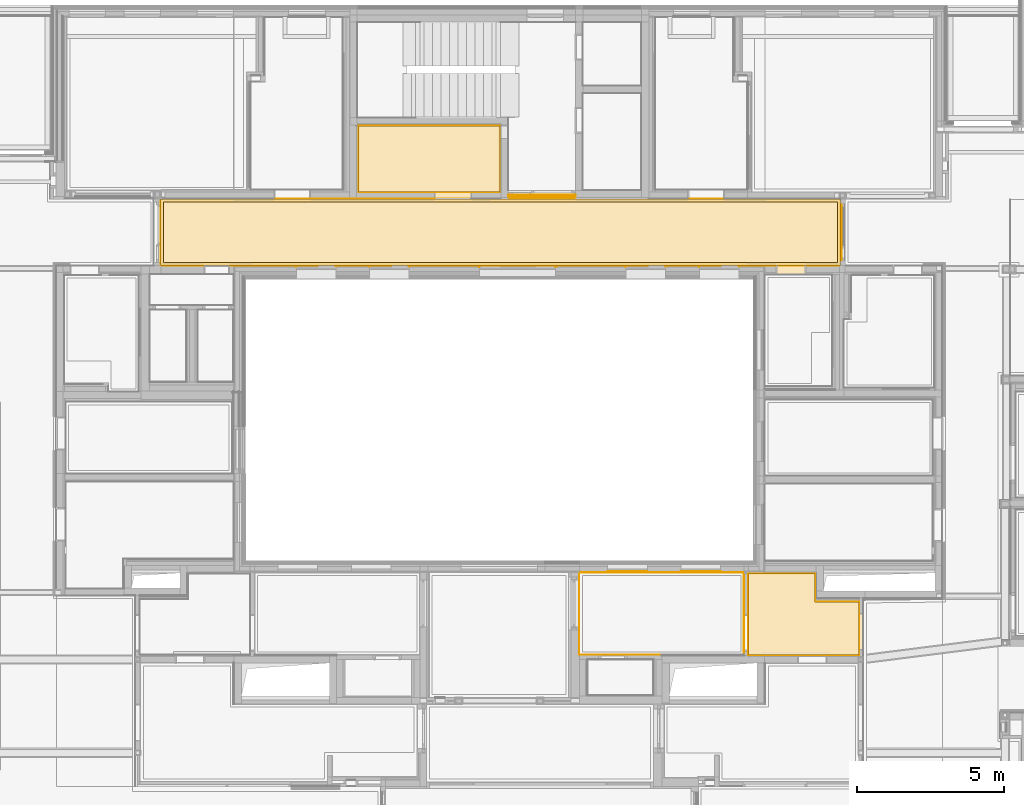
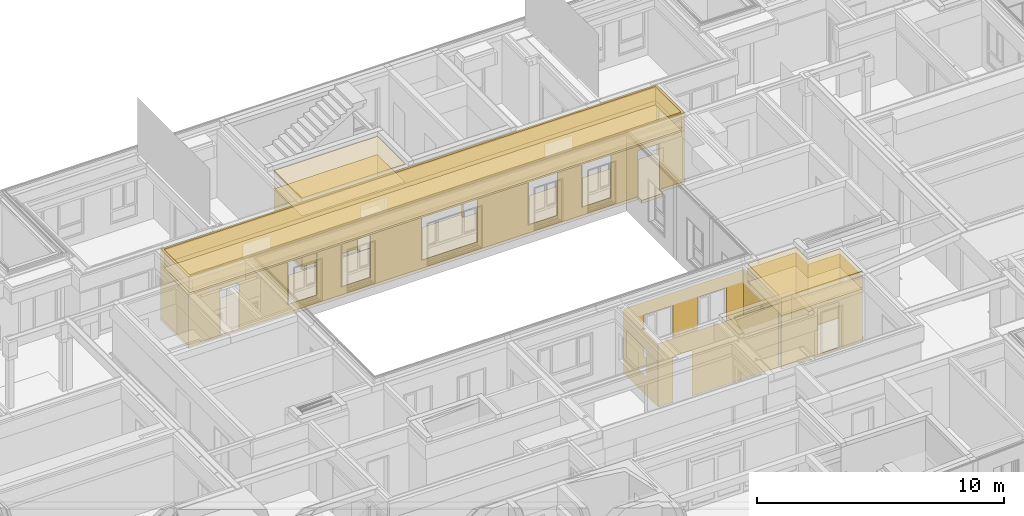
# One storey, part 174 of 222: 24 coverings.
"""IFC4 building model written with IfcOpenShell, lengths in metres."""

from ifc_helpers import new_model, entity, si_unit, converted_unit, derived_unit, frame, frame_2d, origin, origin_with_axes, place, context, subcontext, project, spatial, polyline, rectangle, outline, extrude, material, layer, layer_set, layer_usage, element, save


model = new_model("IFC4")

# Units and contexts
model_context = context("Model", 3, precision=1e-05, world=origin())
body_context = subcontext(model_context, "Body", "Model", "MODEL_VIEW")
ifc_project = project(units=[si_unit("LENGTHUNIT", "METRE"), si_unit("AREAUNIT", "SQUARE_METRE"), si_unit("VOLUMEUNIT", "CUBIC_METRE"), si_unit("MASSUNIT", "GRAM", prefix="KILO"), converted_unit("PLANEANGLEUNIT", "DEGREE", entity("IfcPlaneAngleMeasure", 0.0174532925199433), si_unit("PLANEANGLEUNIT", "RADIAN"), dimensions=[0, 0, 0, 0, 0, 0, 0]), derived_unit("THERMALTRANSMITTANCEUNIT", [(si_unit("POWERUNIT", "WATT"), 1), (si_unit("THERMODYNAMICTEMPERATUREUNIT", "KELVIN"), -1), (si_unit("LENGTHUNIT", "METRE"), -2)]), derived_unit("VOLUMETRICFLOWRATEUNIT", [(si_unit("LENGTHUNIT", "METRE"), 3), (converted_unit("TIMEUNIT", "hour", entity("IfcTimeMeasure", 3600.0), si_unit("TIMEUNIT", "SECOND"), dimensions=[0, 0, 1, 0, 0, 0, 0]), -1), (si_unit("LENGTHUNIT", "METRE"), -1)])], contexts=[model_context])

# Site, building, storey, space
site_placement = place(None, origin())
site = spatial("IfcSite", under=ifc_project, at=site_placement, Name="Psychiatrie Neubau Wunstorf", CompositionType="ELEMENT")
building_placement = place(site_placement, origin())
building = spatial("IfcBuilding", under=site, at=building_placement, Name="Neubau H2 Stationsgebäude", CompositionType="ELEMENT")
storey_placement = place(building_placement, frame((0.0, 0.0, 3.6)))
storey = spatial("IfcBuildingStorey", under=building, at=storey_placement, Name="H2 Ebene +1", CompositionType="ELEMENT", Elevation=3.6)
space_1_placement = place(storey_placement, frame((41.4405, 20.5859980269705, 0.0)))
space_1 = spatial("IfcSpace", under=storey, at=space_1_placement, Name="WUN-H2-E01-F08", CompositionType="ELEMENT")

# Coverings
ifc_material_1 = material(Name="97")
ifc_layer_1 = layer(ifc_material_1, 0.001)
ifc_layer_set_1 = layer_set([ifc_layer_1])
ifc_layer_usage_1 = layer_usage(ifc_layer_set_1, "AXIS3", "POSITIVE", 0.0)
covering_1_placement = place(space_1_placement, frame((5.12450000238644, 2.27800196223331, 0.8)))
element("IfcCovering", 1, at=covering_1_placement, inside=space_1, material=ifc_layer_usage_1, Name="Handlauf", PredefinedType="CLADDING", context=body_context, shape_type="SweptSolid", body=[
    extrude(rectangle(XDim=4.22499999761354, YDim=0.1, at=frame_2d((-2.11249999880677, 0.05), x_axis=(-1.0, 0.0))), frame((0.0, 0.0, 0.1), z_axis=(-7.61597301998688e-10, -1.0, 1.02646359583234e-24), x_axis=(-1.0, 7.61597301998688e-10, 0.0)), (0.0, 0.0, 1.0), 0.001),
])
ifc_material_2 = material()
ifc_layer_2 = layer(ifc_material_2, 0.036)
ifc_layer_set_2 = layer_set([ifc_layer_2])
ifc_layer_usage_2 = layer_usage(ifc_layer_set_2, "AXIS3", "POSITIVE", 0.0)
covering_2_placement = place(space_1_placement, frame((0.1, 0.0999999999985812, 3.55)))
element("IfcCovering", 2, at=covering_2_placement, inside=space_1, material=ifc_layer_usage_2, Name="Gipsfaserplatten 2-lagig (BSK)", PredefinedType="CEILING", context=body_context, shape_type="SweptSolid", body=[
    extrude(outline(polyline([(22.998, 2.07800196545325), (0.0, 2.07800193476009), (0.0, 9.56099051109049e-07), (22.998, 0.0), (22.998, 2.07800196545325)])), frame((0.0, 2.07800196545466, 0.0), z_axis=(0.0, 0.0, -1.0), x_axis=(1.0, 0.0, 0.0)), (0.0, 0.0, 1.0), 0.036),
])
ifc_material_3 = material(Name="Installationshöhe")
ifc_layer_3 = layer(ifc_material_3, 0.664)
ifc_layer_set_3 = layer_set([ifc_layer_3])
ifc_layer_usage_3 = layer_usage(ifc_layer_set_3, "AXIS3", "POSITIVE", 0.0)
covering_3_placement = place(space_1_placement, frame((0.1, 0.0999999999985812, 3.514)))
element("IfcCovering", 3, at=covering_3_placement, inside=space_1, material=ifc_layer_usage_3, Name="Gipsfaserplatten 2-lagig (BSK)", PredefinedType="CEILING", context=body_context, shape_type="SweptSolid", body=[
    extrude(outline(polyline([(22.998, 2.07800196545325), (0.0, 2.07800193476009), (0.0, 9.56099051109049e-07), (22.998, 0.0), (22.998, 2.07800196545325)])), frame((0.0, 2.07800196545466, 0.0), z_axis=(0.0, 0.0, -1.0), x_axis=(1.0, 0.0, 0.0)), (0.0, 0.0, 1.0), 0.664),
])
ifc_material_4 = material(Name="Aa")
ifc_layer_4 = layer(ifc_material_4, 0.2)
ifc_layer_set_4 = layer_set([ifc_layer_4])
ifc_layer_usage_4 = layer_usage(ifc_layer_set_4, "AXIS3", "POSITIVE", 0.0)
covering_4_placement = place(space_1_placement, frame((0.1, 0.0999999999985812, 2.85)))
element("IfcCovering", 4, at=covering_4_placement, inside=space_1, material=ifc_layer_usage_4, Name="Gipsfaserplatten 2-lagig (BSK)", PredefinedType="CEILING", context=body_context, shape_type="SweptSolid", body=[
    extrude(outline(polyline([(22.998, 2.07800196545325), (0.0, 2.07800193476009), (0.0, 9.56099051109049e-07), (22.998, 0.0), (22.998, 2.07800196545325)])), frame((0.0, 2.07800196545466, 0.0), z_axis=(0.0, 0.0, -1.0), x_axis=(1.0, 0.0, 0.0)), (0.0, 0.0, 1.0), 0.2),
])
ifc_material_5 = material(Name="D1")
ifc_layer_5 = layer(ifc_material_5, 0.001)
ifc_layer_set_5 = layer_set([ifc_layer_5])
ifc_layer_usage_5 = layer_usage(ifc_layer_set_5, "AXIS3", "POSITIVE", 0.0)
covering_5_placement = place(space_1_placement, frame((0.1, 0.0999999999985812, 2.65)))
element("IfcCovering", 5, at=covering_5_placement, inside=space_1, material=ifc_layer_usage_5, Name="Gipsfaserplatten 2-lagig (BSK)", PredefinedType="CEILING", context=body_context, shape_type="SweptSolid", body=[
    extrude(outline(polyline([(22.998, 2.07800196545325), (0.0, 2.07800193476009), (0.0, 9.56099051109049e-07), (22.998, 0.0), (22.998, 2.07800196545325)])), frame((0.0, 2.07800196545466, 0.0), z_axis=(0.0, 0.0, -1.0), x_axis=(1.0, 0.0, 0.0)), (0.0, 0.0, 1.0), 0.001),
])
ifc_material_6 = material(Name="Ku1")
ifc_layer_6 = layer(ifc_material_6, 0.15)
ifc_layer_set_6 = layer_set([ifc_layer_6])
ifc_layer_usage_6 = layer_usage(ifc_layer_set_6, "AXIS3", "POSITIVE", 0.0)
covering_6_placement = place(space_1_placement, frame((0.0, -0.306999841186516, 0.0)))
element("IfcCovering", 6, at=covering_6_placement, inside=space_1, material=ifc_layer_usage_6, Name="PVC Bahnenware Holzoptik", PredefinedType="FLOORING", context=body_context, shape_type="SweptSolid", body=[
    extrude(rectangle(XDim=0.12, YDim=1.968, at=frame_2d((-0.06, -0.984), x_axis=(-1.0, 0.0))), frame((23.318, 2.43000082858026, 0.0), z_axis=(0.0, 0.0, 1.0), x_axis=(1.0, 0.0, 0.0)), (0.0, 0.0, 1.0), 0.15),
    extrude(rectangle(XDim=0.307, YDim=1.26, at=frame_2d((0.63, -0.1535), x_axis=(0.0, -1.0))), frame((3.86450000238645, 2.89200180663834, 0.0), z_axis=(0.0, 0.0, 1.0), x_axis=(1.0, 0.0, 0.0)), (0.0, 0.0, 1.0), 0.15),
    extrude(rectangle(XDim=0.220499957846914, YDim=2.2999951, at=frame_2d((1.14999755, -0.110249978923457), x_axis=(0.0, -1.0))), frame((11.8595, 2.8054932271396, 0.0), z_axis=(0.0, 0.0, 1.0), x_axis=(1.0, 0.0, 0.0)), (0.0, 0.0, 1.0), 0.15),
    extrude(rectangle(XDim=0.306999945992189, YDim=1.01, at=frame_2d((-0.505, 0.153499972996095), x_axis=(0.0, 1.0))), frame((22.0195000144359, 0.0, 0.0), z_axis=(0.0, 0.0, 1.0), x_axis=(1.0, 0.0, 0.0)), (0.0, 0.0, 1.0), 0.15),
    extrude(outline(polyline([(23.198, 2.27800196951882), (0.0, 2.27800101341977), (0.0, 3.06931506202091e-08), (23.198, 0.0), (23.198, 2.27800196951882)])), frame((0.0, 0.306999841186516, 0.0), z_axis=(0.0, 0.0, 1.0), x_axis=(1.0, 0.0, 0.0)), (0.0, 0.0, 1.0), 0.15),
])
ifc_material_7 = material()
ifc_layer_7 = layer(ifc_material_7, 0.036)
ifc_layer_set_7 = layer_set([ifc_layer_7])
ifc_layer_usage_7 = layer_usage(ifc_layer_set_7, "AXIS3", "POSITIVE", 0.0)
covering_7_placement = place(space_1_placement, frame((0.0, 0.0, 3.55)))
element("IfcCovering", 7, at=covering_7_placement, inside=space_1, material=ifc_layer_usage_7, Name="Gipsfaserplatten 2-lagig (BSK)", PredefinedType="CEILING", context=body_context, shape_type="SweptSolid", body=[
    extrude(outline(polyline([(0.0, 9.56099051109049e-07), (23.198, 0.0), (23.198, 2.27800196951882), (0.0, 2.27800193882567), (0.0, 9.56099051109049e-07)]), holes=[polyline([(0.1, 2.17800193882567), (23.098, 2.17800196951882), (23.098, 0.100000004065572), (0.1, 0.100000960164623), (0.1, 2.17800193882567)])]), frame((0.0, 2.27800196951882, 0.0), z_axis=(0.0, 0.0, -1.0), x_axis=(1.0, 0.0, 0.0)), (0.0, 0.0, 1.0), 0.036),
])
ifc_material_8 = material(Name="Installationshöhe")
ifc_layer_8 = layer(ifc_material_8, 0.664)
ifc_layer_set_8 = layer_set([ifc_layer_8])
ifc_layer_usage_8 = layer_usage(ifc_layer_set_8, "AXIS3", "POSITIVE", 0.0)
covering_8_placement = place(space_1_placement, frame((0.0, 0.0, 3.514)))
element("IfcCovering", 8, at=covering_8_placement, inside=space_1, material=ifc_layer_usage_8, Name="Gipsfaserplatten 2-lagig (BSK)", PredefinedType="CEILING", context=body_context, shape_type="SweptSolid", body=[
    extrude(outline(polyline([(0.0, 9.56099051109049e-07), (23.198, 0.0), (23.198, 2.27800196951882), (0.0, 2.27800193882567), (0.0, 9.56099051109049e-07)]), holes=[polyline([(0.1, 2.17800193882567), (23.098, 2.17800196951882), (23.098, 0.100000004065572), (0.1, 0.100000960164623), (0.1, 2.17800193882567)])]), frame((0.0, 2.27800196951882, 0.0), z_axis=(0.0, 0.0, -1.0), x_axis=(1.0, 0.0, 0.0)), (0.0, 0.0, 1.0), 0.664),
])
ifc_material_9 = material(Name="A1")
ifc_layer_9 = layer(ifc_material_9, 0.2)
ifc_layer_set_9 = layer_set([ifc_layer_9])
ifc_layer_usage_9 = layer_usage(ifc_layer_set_9, "AXIS3", "POSITIVE", 0.0)
covering_9_placement = place(space_1_placement, frame((0.0, 0.0, 2.85)))
element("IfcCovering", 9, at=covering_9_placement, inside=space_1, material=ifc_layer_usage_9, Name="Gipsfaserplatten 2-lagig (BSK)", PredefinedType="CEILING", context=body_context, shape_type="SweptSolid", body=[
    extrude(outline(polyline([(0.0, 9.56099051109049e-07), (23.198, 0.0), (23.198, 2.27800196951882), (0.0, 2.27800193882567), (0.0, 9.56099051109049e-07)]), holes=[polyline([(0.1, 2.17800193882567), (23.098, 2.17800196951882), (23.098, 0.100000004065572), (0.1, 0.100000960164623), (0.1, 2.17800193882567)])]), frame((0.0, 2.27800196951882, 0.0), z_axis=(0.0, 0.0, -1.0), x_axis=(1.0, 0.0, 0.0)), (0.0, 0.0, 1.0), 0.2),
])
ifc_material_10 = material(Name="D1")
ifc_layer_10 = layer(ifc_material_10, 0.001)
ifc_layer_set_10 = layer_set([ifc_layer_10])
ifc_layer_usage_10 = layer_usage(ifc_layer_set_10, "AXIS3", "POSITIVE", 0.0)
covering_10_placement = place(space_1_placement, frame((0.0, 0.0, 2.65)))
element("IfcCovering", 10, at=covering_10_placement, inside=space_1, material=ifc_layer_usage_10, Name="Gipsfaserplatten 2-lagig (BSK)", PredefinedType="CEILING", context=body_context, shape_type="SweptSolid", body=[
    extrude(outline(polyline([(0.0, 9.56099051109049e-07), (23.198, 0.0), (23.198, 2.27800196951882), (0.0, 2.27800193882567), (0.0, 9.56099051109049e-07)]), holes=[polyline([(0.1, 2.17800193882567), (23.098, 2.17800196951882), (23.098, 0.100000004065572), (0.1, 0.100000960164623), (0.1, 2.17800193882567)])]), frame((0.0, 2.27800196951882, 0.0), z_axis=(0.0, 0.0, -1.0), x_axis=(1.0, 0.0, 0.0)), (0.0, 0.0, 1.0), 0.001),
])
ifc_material_11 = material(Name="49")
ifc_layer_11 = layer(ifc_material_11, 0.001)
ifc_layer_set_11 = layer_set([ifc_layer_11])
ifc_layer_usage_11 = layer_usage(ifc_layer_set_11, "AXIS3", "POSITIVE", 0.0)
covering_11_placement = place(space_1_placement, frame((0.0, -0.0499999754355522, 0.15)))
element("IfcCovering", 11, at=covering_11_placement, inside=space_1, material=ifc_layer_usage_11, PredefinedType="CLADDING", context=body_context, shape_type="SweptSolid", body=[
    extrude(outline(polyline([(0.0, 2.5), (1.47450000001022, 2.5), (1.47450000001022, 0.24), (2.35950000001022, 0.24), (2.35950000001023, 2.5), (21.0095000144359, 2.5), (21.0095000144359, 0.239999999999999), (22.0195000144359, 0.239999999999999), (22.0195000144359, 2.5), (23.198, 2.5), (23.198, 0.0), (19.7321000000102, 0.0), (19.7321000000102, 2.1), (18.3821000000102, 2.1), (18.3821000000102, 0.0), (17.2321000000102, 0.0), (17.2321000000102, 2.1), (15.8821000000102, 2.1), (15.8821000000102, 0.0), (13.4821000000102, 0.0), (13.4821000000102, 2.1), (10.8821000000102, 2.1), (10.8821000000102, 0.0), (8.48210000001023, 0.0), (8.48210000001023, 2.1), (7.13210000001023, 2.1), (7.13210000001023, 0.0), (5.98210000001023, 0.0), (5.98210000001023, 2.1), (4.63210000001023, 2.1), (4.63210000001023, 0.0), (0.0, 0.0), (0.0, 2.5)])), frame((0.0, 0.0499999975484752, 2.5), z_axis=(-1.22822659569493e-10, 1.0, -7.50131264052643e-09), x_axis=(1.0, 1.22822659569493e-10, 0.0)), (0.0, 0.0, 1.0), 0.001),
    extrude(outline(polyline([(0.0, 2.5), (0.155000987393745, 2.5), (0.155000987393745, 0.24), (2.12300098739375, 0.24), (2.12300098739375, 2.5), (2.27800196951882, 2.5), (2.27800196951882, 0.0), (0.0, 0.0), (0.0, 2.5)])), frame((23.198, 0.0499999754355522, 2.5), z_axis=(-1.0, 5.59634165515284e-17, -9.9008657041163e-16), x_axis=(5.59634165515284e-17, 1.0, 0.0)), (0.0, 0.0, 1.0), 0.001),
    extrude(outline(polyline([(23.198, 1.65000000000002), (23.198, 0.0), (0.0, 0.0), (0.0, 1.64999999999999), (3.95350000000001, 1.64999999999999), (3.9535, 0.239999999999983), (5.2135, 0.239999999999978), (5.21350000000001, 1.64999999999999), (12.5885, 1.65), (12.5885, 0.239999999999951), (13.8485, 0.239999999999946), (13.8485, 1.65), (18.0734999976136, 1.65000000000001), (18.0734999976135, 0.239999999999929), (19.3334999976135, 0.239999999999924), (19.3334999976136, 1.65000000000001), (23.198, 1.65000000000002)])), frame((23.198, 2.32800212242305, 2.49999999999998), z_axis=(3.10192313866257e-08, -0.999999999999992, 1.23966828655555e-07), x_axis=(-1.0, -3.10192313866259e-08, 0.0)), (0.0, 0.0, 1.0), 0.001),
    extrude(rectangle(XDim=2.27800098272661, YDim=2.5, at=frame_2d((1.13900049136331, -1.25), x_axis=(1.0, 0.0))), frame((0.0, 2.32800098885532, 0.0), z_axis=(1.0, 0.0, 0.0), x_axis=(0.0, -1.0, 0.0)), (0.0, 0.0, 1.0), 0.001),
    extrude(rectangle(XDim=0.0499999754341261, YDim=2.1, at=frame_2d((0.024999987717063, -1.05), x_axis=(1.0, 0.0))), frame((4.63210000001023, 0.0499999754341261, 0.4), z_axis=(1.0, 0.0, 0.0), x_axis=(0.0, -1.0, 0.0)), (0.0, 0.0, 1.0), 0.001),
    extrude(rectangle(XDim=2.1, YDim=0.0499999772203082, at=frame_2d((-0.0249999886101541, -1.05), x_axis=(0.0, -1.0))), frame((5.98210000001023, 0.0499999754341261, 0.4), z_axis=(-1.0, 0.0, 0.0), x_axis=(0.0, 1.0, 0.0)), (0.0, 0.0, 1.0), 0.001),
    extrude(rectangle(XDim=2.1, YDim=0.0499999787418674, at=frame_2d((-0.0249999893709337, -1.05), x_axis=(0.0, -1.0))), frame((7.13210000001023, 0.0, 0.4), z_axis=(1.0, 0.0, 0.0), x_axis=(0.0, -1.0, 0.0)), (0.0, 0.0, 1.0), 0.001),
    extrude(rectangle(XDim=2.1, YDim=0.0499999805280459, at=frame_2d((-0.0249999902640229, -1.05), x_axis=(0.0, -1.0))), frame((8.48210000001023, 0.0499999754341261, 0.4), z_axis=(-1.0, 0.0, 0.0), x_axis=(0.0, 1.0, 0.0)), (0.0, 0.0, 1.0), 0.001),
    extrude(rectangle(XDim=2.1, YDim=0.0499999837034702, at=frame_2d((-0.0249999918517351, -1.05), x_axis=(0.0, -1.0))), frame((10.8821000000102, 0.0, 0.4), z_axis=(1.0, 0.0, 0.0), x_axis=(0.0, -1.0, 0.0)), (0.0, 0.0, 1.0), 0.001),
    extrude(rectangle(XDim=2.1, YDim=0.0499999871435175, at=frame_2d((-0.0249999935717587, -1.05), x_axis=(0.0, -1.0))), frame((13.4821000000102, 0.0499999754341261, 0.4), z_axis=(-1.0, -7.27595948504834e-14, -1.73237086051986e-15), x_axis=(-7.27595948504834e-14, 1.0, 0.0)), (0.0, 0.0, 1.0), 0.001),
    extrude(rectangle(XDim=2.1, YDim=0.0499999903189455, at=frame_2d((-0.0249999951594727, -1.05), x_axis=(0.0, -1.0))), frame((15.8821000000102, -1.48848193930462e-08, 0.4), z_axis=(1.0, 7.27595902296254e-14, 1.73237086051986e-15), x_axis=(7.27595902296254e-14, -1.0, 0.0)), (0.0, 0.0, 1.0), 0.001),
    extrude(rectangle(XDim=2.1, YDim=0.049999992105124, at=frame_2d((-0.024999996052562, -1.05), x_axis=(0.0, -1.0))), frame((17.2321000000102, 0.0499999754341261, 0.4), z_axis=(-1.0, -1.45519175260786e-13, 0.0), x_axis=(-1.45519175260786e-13, 1.0, 0.0)), (0.0, 0.0, 1.0), 0.001),
    extrude(rectangle(XDim=2.1, YDim=0.0499999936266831, at=frame_2d((-0.0249999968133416, -1.05), x_axis=(0.0, -1.0))), frame((18.3821000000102, -1.81925570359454e-08, 0.4), z_axis=(1.0, -7.27595854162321e-14, 1.73237086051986e-15), x_axis=(-7.27595854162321e-14, -1.0, 0.0)), (0.0, 0.0, 1.0), 0.001),
    extrude(rectangle(XDim=2.1, YDim=0.049999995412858, at=frame_2d((-0.024999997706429, -1.05), x_axis=(0.0, -1.0))), frame((19.7321000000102, 0.0499999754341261, 0.4), z_axis=(-1.0, 1.4551916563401e-13, -3.46474172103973e-15), x_axis=(1.4551916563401e-13, 1.0, 0.0)), (0.0, 0.0, 1.0), 0.001),
    extrude(rectangle(XDim=0.04, YDim=2.26, at=frame_2d((0.02, -1.13), x_axis=(1.0, 0.0))), frame((23.198, 0.205000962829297, 0.0), z_axis=(0.0, 1.0, 0.0), x_axis=(1.0, 0.0, 0.0)), (0.0, 0.0, 1.0), 0.001),
    extrude(rectangle(XDim=1.968, YDim=0.04, at=frame_2d((0.02, 0.984), x_axis=(0.0, 1.0))), frame((23.198, 2.1730009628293, 2.26), z_axis=(0.0, 0.0, -1.0), x_axis=(1.0, 0.0, 0.0)), (0.0, 0.0, 1.0), 0.001),
    extrude(rectangle(XDim=2.26, YDim=0.04, at=frame_2d((0.02, 1.13), x_axis=(0.0, 1.0))), frame((23.238, 2.1730009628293, 2.26), z_axis=(0.0, -1.0, 0.0), x_axis=(-1.0, 0.0, 0.0)), (0.0, 0.0, 1.0), 0.001),
    extrude(rectangle(XDim=2.38, YDim=0.140490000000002, at=frame_2d((0.0702450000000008, 1.19), x_axis=(0.0, 1.0))), frame((14.1594951, 2.32800157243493, 2.38), z_axis=(-1.0, 0.0, 0.0), x_axis=(0.0, 1.0, 0.0)), (0.0, 0.0, 1.0), 0.001),
    extrude(rectangle(XDim=2.2999951, YDim=0.140489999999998, at=frame_2d((1.14999755, -0.0702450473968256), x_axis=(0.999999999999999, -4.12147196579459e-08))), frame((11.8595, 2.32800147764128, 2.38), z_axis=(0.0, 0.0, -1.0), x_axis=(1.0, 0.0, 0.0)), (0.0, 0.0, 1.0), 0.001),
    extrude(rectangle(XDim=2.38, YDim=0.140490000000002, at=frame_2d((0.0702450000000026, 1.19), x_axis=(1.52856252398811e-15, 1.0))), frame((11.8595, 2.46849147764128, 2.38), z_axis=(1.0, 0.0, 0.0), x_axis=(0.0, -1.0, 0.0)), (0.0, 0.0, 1.0), 0.001),
])

# Space
space_2_placement = place(storey_placement, frame((61.5, 7.29499963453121, 0.0)))
space_2 = spatial("IfcSpace", under=storey, at=space_2_placement, Name="WUN-H2-E01-064", CompositionType="ELEMENT")

# Coverings
ifc_material_12 = material(Name="Ku1")
ifc_layer_12 = layer(ifc_material_12, 0.15)
ifc_layer_set_12 = layer_set([ifc_layer_12])
ifc_layer_usage_12 = layer_usage(ifc_layer_set_12, "AXIS3", "POSITIVE", 0.0)
covering_12_placement = place(space_2_placement, origin())
element("IfcCovering", 12, at=covering_12_placement, inside=space_2, material=ifc_layer_usage_12, Name="PVC Bahnenware Holzoptik", PredefinedType="FLOORING", context=body_context, shape_type="SweptSolid", body=[
    extrude(rectangle(XDim=0.15, YDim=1.26, at=frame_2d((-0.075, -0.63), x_axis=(-1.0, 0.0))), frame((3.92499633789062, 1.42669606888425, 0.0), z_axis=(0.0, 0.0, 1.0), x_axis=(1.0, 0.0, 0.0)), (0.0, 0.0, 1.0), 0.15),
    extrude(outline(polyline([(3.77499633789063, 1.81500005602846), (2.28000036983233, 1.81500005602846), (2.28000036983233, 2.77900005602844), (0.0, 2.77900005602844), (0.0, 5.60275566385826e-08), (3.77499633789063, 0.0), (3.77499633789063, 1.81500005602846)])), origin_with_axes(), (0.0, 0.0, 1.0), 0.15),
])
ifc_material_13 = material()
ifc_layer_13 = layer(ifc_material_13, 0.036)
ifc_layer_set_13 = layer_set([ifc_layer_13])
ifc_layer_usage_13 = layer_usage(ifc_layer_set_13, "AXIS3", "POSITIVE", 0.0)
covering_13_placement = place(space_2_placement, frame((0.0, 0.0, 3.55)))
element("IfcCovering", 13, at=covering_13_placement, inside=space_2, material=ifc_layer_usage_13, Name="Gipsfaserplatten 2-lagig (BSK)", PredefinedType="CEILING", context=body_context, shape_type="SweptSolid", body=[
    extrude(outline(polyline([(2.28000036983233, 0.963999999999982), (3.77499633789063, 0.963999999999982), (3.77499633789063, 2.77900005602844), (0.0, 2.77900000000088), (0.0, 0.0), (2.28000036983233, 0.0), (2.28000036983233, 0.963999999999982)])), frame((0.0, 2.77900005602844, 0.0), z_axis=(0.0, 0.0, -1.0), x_axis=(1.0, 0.0, 0.0)), (0.0, 0.0, 1.0), 0.036),
])
ifc_material_14 = material(Name="Installationshöhe")
ifc_layer_14 = layer(ifc_material_14, 0.764)
ifc_layer_set_14 = layer_set([ifc_layer_14])
ifc_layer_usage_14 = layer_usage(ifc_layer_set_14, "AXIS3", "POSITIVE", 0.0)
covering_14_placement = place(space_2_placement, frame((0.0, 0.0, 3.514)))
element("IfcCovering", 14, at=covering_14_placement, inside=space_2, material=ifc_layer_usage_14, Name="Gipsfaserplatten 2-lagig (BSK)", PredefinedType="CEILING", context=body_context, shape_type="SweptSolid", body=[
    extrude(outline(polyline([(2.28000036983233, 0.963999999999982), (3.77499633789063, 0.963999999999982), (3.77499633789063, 2.77900005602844), (0.0, 2.77900000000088), (0.0, 0.0), (2.28000036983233, 0.0), (2.28000036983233, 0.963999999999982)])), frame((0.0, 2.77900005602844, 0.0), z_axis=(0.0, 0.0, -1.0), x_axis=(1.0, 0.0, 0.0)), (0.0, 0.0, 1.0), 0.764),
])
ifc_material_15 = material(Name="A1")
ifc_layer_15 = layer(ifc_material_15, 0.1)
ifc_layer_set_15 = layer_set([ifc_layer_15])
ifc_layer_usage_15 = layer_usage(ifc_layer_set_15, "AXIS3", "POSITIVE", 0.0)
covering_15_placement = place(space_2_placement, frame((0.0, 0.0, 2.75)))
element("IfcCovering", 15, at=covering_15_placement, inside=space_2, material=ifc_layer_usage_15, Name="Gipsfaserplatten 2-lagig (BSK)", PredefinedType="CEILING", context=body_context, shape_type="SweptSolid", body=[
    extrude(outline(polyline([(2.28000036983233, 0.963999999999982), (3.77499633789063, 0.963999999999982), (3.77499633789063, 2.77900005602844), (0.0, 2.77900000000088), (0.0, 0.0), (2.28000036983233, 0.0), (2.28000036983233, 0.963999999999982)])), frame((0.0, 2.77900005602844, 0.0), z_axis=(0.0, 0.0, -1.0), x_axis=(1.0, 0.0, 0.0)), (0.0, 0.0, 1.0), 0.1),
])
ifc_material_16 = material(Name="D1")
ifc_layer_16 = layer(ifc_material_16, 0.001)
ifc_layer_set_16 = layer_set([ifc_layer_16])
ifc_layer_usage_16 = layer_usage(ifc_layer_set_16, "AXIS3", "POSITIVE", 0.0)
covering_16_placement = place(space_2_placement, frame((0.0, 0.0, 2.65)))
element("IfcCovering", 16, at=covering_16_placement, inside=space_2, material=ifc_layer_usage_16, Name="Gipsfaserplatten 2-lagig (BSK)", PredefinedType="CEILING", context=body_context, shape_type="SweptSolid", body=[
    extrude(outline(polyline([(2.28000036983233, 0.963999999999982), (3.77499633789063, 0.963999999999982), (3.77499633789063, 2.77900005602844), (0.0, 2.77900000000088), (0.0, 0.0), (2.28000036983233, 0.0), (2.28000036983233, 0.963999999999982)])), frame((0.0, 2.77900005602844, 0.0), z_axis=(0.0, 0.0, -1.0), x_axis=(1.0, 0.0, 0.0)), (0.0, 0.0, 1.0), 0.001),
])
ifc_material_17 = material(Name="49")
ifc_layer_17 = layer(ifc_material_17, 0.001)
ifc_layer_set_17 = layer_set([ifc_layer_17])
ifc_layer_usage_17 = layer_usage(ifc_layer_set_17, "AXIS3", "POSITIVE", 0.0)
covering_17_placement = place(space_2_placement, frame((0.0, 0.0, 0.15)))
element("IfcCovering", 17, at=covering_17_placement, inside=space_2, material=ifc_layer_usage_17, PredefinedType="CLADDING", context=body_context, shape_type="SweptSolid", body=[
    extrude(outline(polyline([(0.0, 3.15), (1.67500000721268, 3.15), (1.67500000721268, 0.89), (2.68500000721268, 0.89), (2.68500000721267, 3.15), (3.77499633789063, 3.15), (3.77499633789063, 0.0), (0.0, 0.0), (0.0, 3.15)])), frame((0.0, 6.48662708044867e-08, 3.15), z_axis=(1.35192077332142e-08, 1.0, -1.91359175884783e-09), x_axis=(1.0, -1.35192077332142e-08, 0.0)), (0.0, 0.0, 1.0), 0.001),
    extrude(outline(polyline([(0.0, 3.15), (0.166696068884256, 3.15), (0.166696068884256, 0.89), (1.42669606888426, 0.89), (1.42669606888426, 3.15), (1.81500005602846, 3.15), (1.81500005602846, 0.0), (0.0, 0.0), (0.0, 3.15)])), frame((3.77499633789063, 0.0, 3.15), z_axis=(-1.0, 0.0, 0.0), x_axis=(0.0, 1.0, 0.0)), (0.0, 0.0, 1.0), 0.001),
    extrude(rectangle(XDim=1.4949959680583, YDim=3.15, at=frame_2d((0.747497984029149, -1.575), x_axis=(1.0, 0.0))), frame((3.77499633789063, 1.81500005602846, 0.0), z_axis=(0.0, -1.0, 0.0), x_axis=(-1.0, 0.0, 0.0)), (0.0, 0.0, 1.0), 0.001),
    extrude(rectangle(XDim=0.963999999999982, YDim=3.15, at=frame_2d((0.481999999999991, -1.575), x_axis=(1.0, 0.0))), frame((2.28000036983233, 1.81500005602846, 0.0), z_axis=(-1.0, 0.0, 0.0), x_axis=(0.0, 1.0, 0.0)), (0.0, 0.0, 1.0), 0.001),
    extrude(rectangle(XDim=2.28000036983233, YDim=3.15, at=frame_2d((1.14000018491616, -1.575), x_axis=(1.0, 0.0))), frame((2.28000036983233, 2.77900005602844, 0.0), z_axis=(0.0, -1.0, 0.0), x_axis=(-1.0, 0.0, 0.0)), (0.0, 0.0, 1.0), 0.001),
    extrude(outline(polyline([(0.0, 3.15), (1.389, 3.15), (1.389, 0.89), (2.649, 0.89), (2.649, 3.15), (2.77900000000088, 3.15), (2.77900000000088, 0.0), (0.0, 0.0), (0.0, 3.15)])), frame((0.0, 2.77900005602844, 3.15), z_axis=(1.0, 0.0, 0.0), x_axis=(0.0, -1.0, 0.0)), (0.0, 0.0, 1.0), 0.001),
])

# Space
space_3_placement = place(storey_placement, frame((55.7325000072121, 7.29999969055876, 0.0)))
space_3 = spatial("IfcSpace", under=storey, at=space_3_placement, Name="WUN-H2-E01-064a", CompositionType="ELEMENT")

# Covering
ifc_material_18 = material(Name="49")
ifc_layer_18 = layer(ifc_material_18, 0.001)
ifc_layer_set_18 = layer_set([ifc_layer_18])
ifc_layer_usage_18 = layer_usage(ifc_layer_set_18, "AXIS3", "POSITIVE", 0.0)
covering_18_placement = place(space_3_placement, frame((0.0, 0.0, 0.15)))
element("IfcCovering", 18, at=covering_18_placement, inside=space_3, material=ifc_layer_usage_18, PredefinedType="CLADDING", context=body_context, shape_type="SweptSolid", body=[
    extrude(outline(polyline([(0.0, 3.15), (5.61749999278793, 3.15), (5.61749999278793, 0.0), (0.0, 0.0), (0.0, 3.15)]), holes=[polyline([(4.6513, 2.75), (3.3013, 2.75), (3.3013, 0.635), (4.6513, 0.635), (4.6513, 2.75)]), polyline([(2.1513, 2.75), (0.801300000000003, 2.75), (0.801300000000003, 0.635), (2.1513, 0.635), (2.1513, 2.75)])]), frame((5.61749999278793, 2.81400000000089, 3.15), z_axis=(0.0, -1.0, 0.0), x_axis=(-1.0, 0.0, 0.0)), (0.0, 0.0, 1.0), 0.001),
    extrude(outline(polyline([(0.0, 3.15), (2.81400000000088, 3.15), (2.81400000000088, 0.0), (0.0, 0.0), (0.0, 3.15)]), holes=[polyline([(1.86250000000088, 2.225), (0.262500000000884, 2.225), (0.262500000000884, 0.915), (1.86250000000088, 0.915), (1.86250000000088, 2.225)])]), frame((0.0, 2.81400000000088, 3.15), z_axis=(1.0, 2.50938584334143e-14, 0.0), x_axis=(2.50938584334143e-14, -1.0, 0.0)), (0.0, 0.0, 1.0), 0.001),
    extrude(outline(polyline([(0.0, 3.15), (0.696999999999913, 3.15), (0.696999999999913, 0.89), (1.58199999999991, 0.89), (1.58199999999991, 3.15), (5.61749999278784, 3.15), (5.61749999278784, 0.0), (0.0, 0.0), (0.0, 3.15)])), frame((0.0, 0.0, 3.15), z_axis=(-1.61344168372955e-13, 1.0, 1.11435060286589e-14), x_axis=(1.0, 1.61344168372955e-13, 0.0)), (0.0, 0.0, 1.0), 0.001),
    extrude(outline(polyline([(0.0, 3.15), (0.124999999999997, 3.15), (0.124999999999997, 0.89), (1.385, 0.89), (1.385, 3.15), (2.814, 3.15), (2.814, 0.0), (0.0, 0.0), (0.0, 3.15)])), frame((5.61749999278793, 0.0, 3.15), z_axis=(-1.0, 0.0, 0.0), x_axis=(0.0, 1.0, 0.0)), (0.0, 0.0, 1.0), 0.001),
    extrude(rectangle(XDim=0.0399999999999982, YDim=1.35, at=frame_2d((-0.675, -0.0199999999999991), x_axis=(0.0, -1.0))), frame((2.31619999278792, 2.81400000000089, 2.515), z_axis=(0.0, 0.0, -1.0), x_axis=(1.0, 0.0, 0.0)), (0.0, 0.0, 1.0), 0.001),
    extrude(rectangle(XDim=0.0399999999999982, YDim=2.115, at=frame_2d((0.0199999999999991, -1.0575), x_axis=(1.0, 0.0))), frame((2.31619999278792, 2.81400000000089, 0.4), z_axis=(-1.0, 0.0, 0.0), x_axis=(0.0, 1.0, 0.0)), (0.0, 0.0, 1.0), 0.001),
    extrude(rectangle(XDim=2.115, YDim=0.0399999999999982, at=frame_2d((-0.0199999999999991, -1.0575), x_axis=(0.0, -1.0))), frame((0.966199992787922, 2.81400000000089, 0.4), z_axis=(1.0, 0.0, 0.0), x_axis=(0.0, -1.0, 0.0)), (0.0, 0.0, 1.0), 0.001),
    extrude(rectangle(XDim=0.0399999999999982, YDim=1.35, at=frame_2d((-0.675, -0.0199999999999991), x_axis=(0.0, -1.0))), frame((4.81619999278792, 2.81400000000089, 2.515), z_axis=(0.0, 0.0, -1.0), x_axis=(1.0, 0.0, 0.0)), (0.0, 0.0, 1.0), 0.001),
    extrude(rectangle(XDim=0.0399999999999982, YDim=2.115, at=frame_2d((0.0199999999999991, -1.0575), x_axis=(1.0, 0.0))), frame((4.81619999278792, 2.81400000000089, 0.4), z_axis=(-1.0, 0.0, 0.0), x_axis=(0.0, 1.0, 0.0)), (0.0, 0.0, 1.0), 0.001),
    extrude(rectangle(XDim=2.115, YDim=0.0399999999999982, at=frame_2d((-0.0199999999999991, -1.0575), x_axis=(0.0, -1.0))), frame((3.46619999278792, 2.81400000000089, 0.4), z_axis=(1.0, 0.0, 0.0), x_axis=(0.0, -1.0, 0.0)), (0.0, 0.0, 1.0), 0.001),
])

# Space
space_4_placement = place(storey_placement, frame((48.196, 23.0959999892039, 0.0)))
space_4 = spatial("IfcSpace", under=storey, at=space_4_placement, Name="WUN-H2-E01-049", CompositionType="ELEMENT")

# Coverings
ifc_material_19 = material(Name="Ku1")
ifc_layer_19 = layer(ifc_material_19, 0.15)
ifc_layer_set_19 = layer_set([ifc_layer_19])
ifc_layer_usage_19 = layer_usage(ifc_layer_set_19, "AXIS3", "POSITIVE", 0.0)
covering_19_placement = place(space_4_placement, frame((0.0, -0.232, 0.0)))
element("IfcCovering", 19, at=covering_19_placement, inside=space_4, material=ifc_layer_usage_19, Name="PVC Bahnenware Holzoptik", PredefinedType="FLOORING", context=body_context, shape_type="SweptSolid", body=[
    extrude(rectangle(XDim=0.232, YDim=1.26, at=frame_2d((-0.63, 0.116), x_axis=(0.0, 1.0))), frame((3.85400000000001, 0.0, 0.0), z_axis=(0.0, 0.0, 1.0), x_axis=(1.0, 0.0, 0.0)), (0.0, 0.0, 1.0), 0.15),
    extrude(rectangle(XDim=4.82400036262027, YDim=2.25900036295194, at=frame_2d((2.41200018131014, 1.1295001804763), x_axis=(1.0, -4.14456553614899e-10))), frame((0.0, 0.232000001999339, 0.0), z_axis=(0.0, 0.0, 1.0), x_axis=(1.0, 0.0, 0.0)), (0.0, 0.0, 1.0), 0.15),
])
ifc_material_20 = material()
ifc_layer_20 = layer(ifc_material_20, 0.036)
ifc_layer_set_20 = layer_set([ifc_layer_20])
ifc_layer_usage_20 = layer_usage(ifc_layer_set_20, "AXIS3", "POSITIVE", 0.0)
covering_20_placement = place(space_4_placement, frame((0.0, 0.0, 3.55)))
element("IfcCovering", 20, at=covering_20_placement, inside=space_4, material=ifc_layer_usage_20, Name="Gipsfaserplatten 2-lagig (BSK)", PredefinedType="CEILING", context=body_context, shape_type="SweptSolid", body=[
    extrude(rectangle(XDim=4.82400036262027, YDim=2.25900036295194, at=frame_2d((-2.41200018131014, -1.12950018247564), x_axis=(-1.0, -4.14456553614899e-10))), frame((4.82400036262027, 0.0, 0.0), z_axis=(0.0, 0.0, -1.0), x_axis=(1.0, 0.0, 0.0)), (0.0, 0.0, 1.0), 0.036),
])
ifc_material_21 = material(Name="Installationshöhe")
ifc_layer_21 = layer(ifc_material_21, 0.764)
ifc_layer_set_21 = layer_set([ifc_layer_21])
ifc_layer_usage_21 = layer_usage(ifc_layer_set_21, "AXIS3", "POSITIVE", 0.0)
covering_21_placement = place(space_4_placement, frame((0.0, 0.0, 3.514)))
element("IfcCovering", 21, at=covering_21_placement, inside=space_4, material=ifc_layer_usage_21, Name="Gipsfaserplatten 2-lagig (BSK)", PredefinedType="CEILING", context=body_context, shape_type="SweptSolid", body=[
    extrude(rectangle(XDim=4.82400036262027, YDim=2.25900036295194, at=frame_2d((-2.41200018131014, -1.12950018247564), x_axis=(-1.0, -4.14456553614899e-10))), frame((4.82400036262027, 0.0, 0.0), z_axis=(0.0, 0.0, -1.0), x_axis=(1.0, 0.0, 0.0)), (0.0, 0.0, 1.0), 0.764),
])
ifc_material_22 = material(Name="B")
ifc_layer_22 = layer(ifc_material_22, 0.1)
ifc_layer_set_22 = layer_set([ifc_layer_22])
ifc_layer_usage_22 = layer_usage(ifc_layer_set_22, "AXIS3", "POSITIVE", 0.0)
covering_22_placement = place(space_4_placement, frame((0.0, 0.0, 2.75)))
element("IfcCovering", 22, at=covering_22_placement, inside=space_4, material=ifc_layer_usage_22, Name="Gipskarton, imprägniert", PredefinedType="CEILING", context=body_context, shape_type="SweptSolid", body=[
    extrude(rectangle(XDim=4.82400036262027, YDim=2.25900036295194, at=frame_2d((-2.41200018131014, -1.12950018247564), x_axis=(-1.0, -4.14456553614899e-10))), frame((4.82400036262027, 0.0, 0.0), z_axis=(0.0, 0.0, -1.0), x_axis=(1.0, 0.0, 0.0)), (0.0, 0.0, 1.0), 0.1),
])
ifc_material_23 = material(Name="D1")
ifc_layer_23 = layer(ifc_material_23, 0.001)
ifc_layer_set_23 = layer_set([ifc_layer_23])
ifc_layer_usage_23 = layer_usage(ifc_layer_set_23, "AXIS3", "POSITIVE", 0.0)
covering_23_placement = place(space_4_placement, frame((0.0, 0.0, 2.65)))
element("IfcCovering", 23, at=covering_23_placement, inside=space_4, material=ifc_layer_usage_23, Name="Gipsfaserplatten 2-lagig (BSK)", PredefinedType="CEILING", context=body_context, shape_type="SweptSolid", body=[
    extrude(rectangle(XDim=4.82400036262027, YDim=2.25900036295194, at=frame_2d((-2.41200018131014, -1.12950018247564), x_axis=(-1.0, -4.14456553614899e-10))), frame((4.82400036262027, 0.0, 0.0), z_axis=(0.0, 0.0, -1.0), x_axis=(1.0, 0.0, 0.0)), (0.0, 0.0, 1.0), 0.001),
])
ifc_material_24 = material(Name="49")
ifc_layer_24 = layer(ifc_material_24, 0.001)
ifc_layer_set_24 = layer_set([ifc_layer_24])
ifc_layer_usage_24 = layer_usage(ifc_layer_set_24, "AXIS3", "POSITIVE", 0.0)
covering_24_placement = place(space_4_placement, frame((0.0, 0.0, 0.15)))
element("IfcCovering", 24, at=covering_24_placement, inside=space_4, material=ifc_layer_usage_24, PredefinedType="CLADDING", context=body_context, shape_type="SweptSolid", body=[
    extrude(rectangle(XDim=4.82400036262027, YDim=2.5, at=frame_2d((2.41200018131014, -1.25), x_axis=(1.0, 0.0))), frame((4.82400036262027, 2.2590003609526, 0.0), z_axis=(-4.14456553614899e-10, -1.0, -3.59602683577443e-26), x_axis=(-1.0, 4.14456553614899e-10, 0.0)), (0.0, 0.0, 1.0), 0.001),
    extrude(rectangle(XDim=2.25900036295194, YDim=2.5, at=frame_2d((1.12950018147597, -1.25), x_axis=(1.0, 0.0))), frame((0.0, 2.25900036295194, 0.0), z_axis=(1.0, 0.0, 0.0), x_axis=(0.0, -1.0, 0.0)), (0.0, 0.0, 1.0), 0.001),
    extrude(outline(polyline([(0.0, 2.5), (2.59400000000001, 2.5), (2.59400000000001, 0.24), (3.85400000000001, 0.24), (3.85400000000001, 2.5), (4.82400036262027, 2.5), (4.82400036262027, 0.0), (0.0, 0.0), (0.0, 2.5)])), frame((0.0, 0.0, 2.5), z_axis=(3.70445940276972e-10, 1.0, 4.67364043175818e-11), x_axis=(1.0, -3.70445940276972e-10, 0.0)), (0.0, 0.0, 1.0), 0.001),
    extrude(rectangle(XDim=2.25900036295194, YDim=2.5, at=frame_2d((1.12950018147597, -1.25), x_axis=(1.0, 0.0))), frame((4.82400036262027, 0.0, 0.0), z_axis=(-1.0, 0.0, 0.0), x_axis=(0.0, 1.0, 0.0)), (0.0, 0.0, 1.0), 0.001),
])

save(model, "model.ifc")
